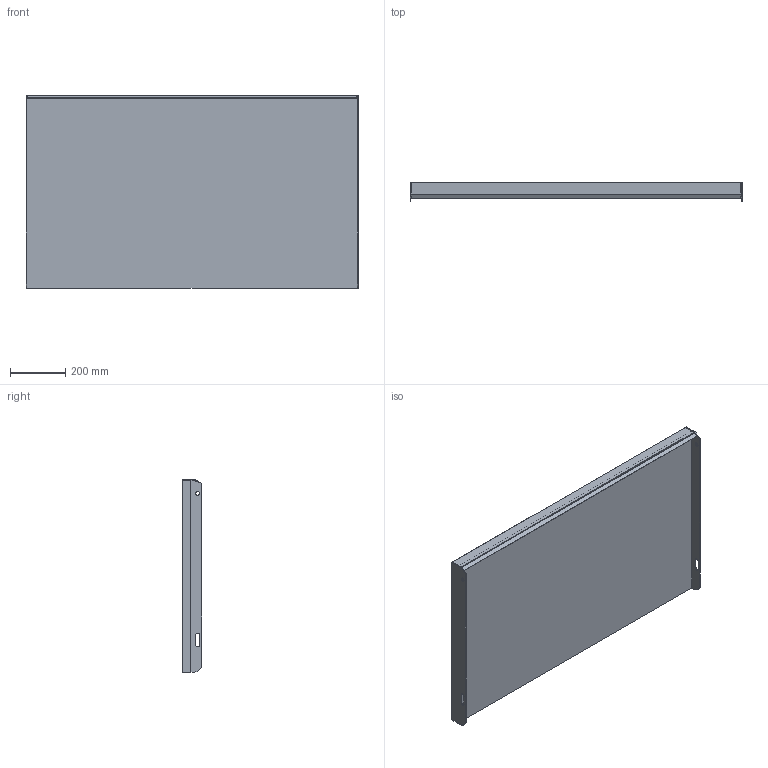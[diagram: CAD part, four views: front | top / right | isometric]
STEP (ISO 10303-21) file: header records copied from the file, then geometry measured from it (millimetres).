
FILE_DESCRIPTION (( 'STEP AP203' ), '1' );
FILE_NAME ('148812071, Plan TH6, 1200x700, vfz.STEP', '2020-10-21T13:16:36', ( '' ), ( '' ), 'SwSTEP 2.0', 'SolidWorks 2019', '' );
FILE_SCHEMA (( 'CONFIG_CONTROL_DESIGN' ));
Length unit declared in the file: millimetre
Products named in the file (4): SW0000041753; SW0000041795; SW0000041386; 148812071, Plan TH6, 1200x700, vfz
Assembly tree (4 placements, depth 2):
  148812071, Plan TH6, 1200x700, vfz
    SW0000041795
    SW0000041386  x2
    SW0000041753
Bounding box: 1200 x 70 x 697 mm (x, y, z)
Volume: 25359664.6 mm3; surface area: 2121949.7 mm2
Topology: 4 solids, 4 shells, 59 faces, 142 edges, 92 vertices
Faces by surface type: plane 45, cylinder 14
Entity records: 1693 total; most frequent: DIRECTION 221, CARTESIAN_POINT 220, ORIENTED_EDGE 206, EDGE_CURVE 103, LINE 87, VECTOR 87, AXIS2_PLACEMENT_3D 67, VERTEX_POINT 66
